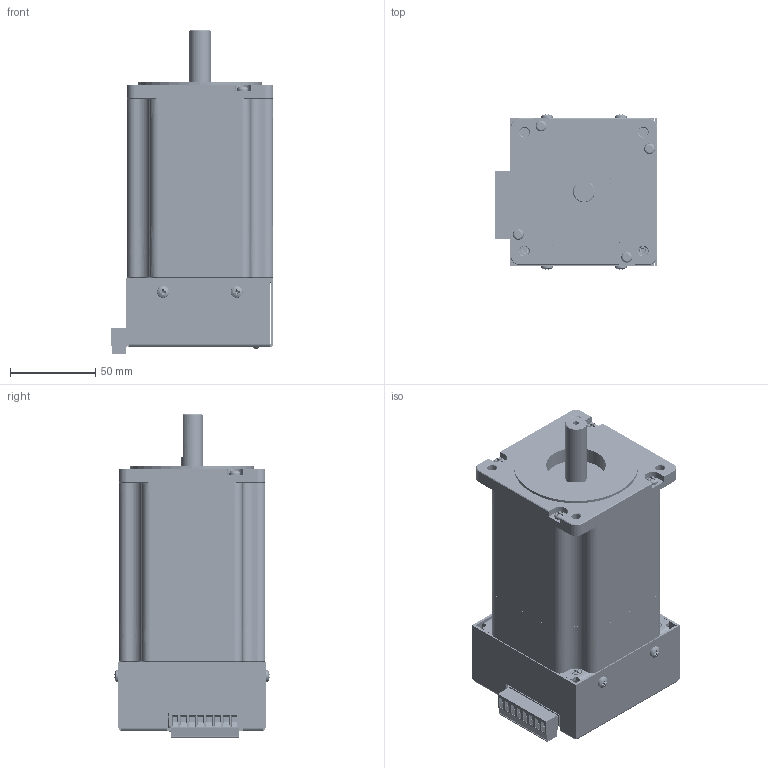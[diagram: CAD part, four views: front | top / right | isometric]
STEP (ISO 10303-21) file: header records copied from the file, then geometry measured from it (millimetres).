
FILE_DESCRIPTION (( 'STEP AP214' ), '1' );
FILE_NAME ('BLY34MDA3S.STEP', '2015-09-16T15:43:10', ( '' ), ( '' ), 'SwSTEP 2.0', 'SolidWorks 2015', '' );
FILE_SCHEMA (( 'AUTOMOTIVE_DESIGN' ));
Length unit declared in the file: inch
Products named in the file (26): Heat Sink, MDC150, MDC151, MDC155-050301; Standoff, 6-32x.250, ROUND_6-32 x .250; LED-SPR5731_LED-SPR5731-RED; LED-SPR5731_LED-SPR5731-GRN; LED-LTM Series_LED-LTM150; RES-3W-.05; CON-B5B-EH-A; 1754562; 1757527; Cover, BLY34MDA Series; CAP-0223; SUB-AA5275A-1; AA5275APCB; 11pan cross head_ai_CR-PHMS 0.112-40x0.25x0.25-S; socket button head cap screw_ai_SBHCSCREW 0.138-32x0.375-HX-S; WSH-KE3049; flat head screw_ai_CR-FHMS 0.138-32x0.375x0.375-S; TRS-IRFB4710PBF; Base PLate, BLY34MDA Series; VRG-TL783CKC; BLY34MDAXS Series_BLY343D; TPE-661000751674-.75X2.00; 11pan cross head_ai_CR-PHMS 0.138-32x0.25x0.25-S; BLY34MDA3S; Standoff, 6-32x.250_STD-6321.0H; 11pan cross head_ai_CR-PHMS 0.138-32x0.5x0.5-S
Assembly tree (59 placements, depth 3):
  BLY34MDA3S
    BLY34MDAXS Series_BLY343D
    Base PLate, BLY34MDA Series
    flat head screw_ai_CR-FHMS 0.138-32x0.375x0.375-S  x4
    socket button head cap screw_ai_SBHCSCREW 0.138-32x0.375-HX-S  x4
    SUB-AA5275A-1
      AA5275APCB
      CAP-0223  x2
      1757527
      CON-B5B-EH-A
      RES-3W-.05
      LED-LTM Series_LED-LTM150  x2
      LED-SPR5731_LED-SPR5731-GRN
      LED-SPR5731_LED-SPR5731-RED
      Standoff, 6-32x.250, ROUND_6-32 x .250  x2
      Heat Sink, MDC150, MDC151, MDC155-050301
      11pan cross head_ai_CR-PHMS 0.138-32x0.5x0.5-S  x2
      Standoff, 6-32x.250_STD-6321.0H  x2
      11pan cross head_ai_CR-PHMS 0.138-32x0.25x0.25-S  x2
      TPE-661000751674-.75X2.00  x2
      VRG-TL783CKC
      TRS-IRFB4710PBF  x6
      WSH-KE3049  x7
      11pan cross head_ai_CR-PHMS 0.112-40x0.25x0.25-S  x7
    Cover, BLY34MDA Series
    11pan cross head_ai_CR-PHMS 0.138-32x0.25x0.25-S  x4
    1754562
Bounding box: 95.36 x 91.01 x 189.33 mm (x, y, z)
Volume: 843864.3 mm3; surface area: 153779.3 mm2
Topology: 58 solids, 58 shells, 5554 faces, 14000 edges, 8868 vertices
Faces by surface type: plane 2752, cylinder 1155, cone 1083, bspline 468, torus 56, sphere 40
Entity records: 173760 total; most frequent: CARTESIAN_POINT 44828, ORIENTED_EDGE 18418, DIRECTION 16538, EDGE_CURVE 9209, VECTOR 6212, LINE 6212, VERTEX_POINT 5889, AXIS2_PLACEMENT_3D 5163
